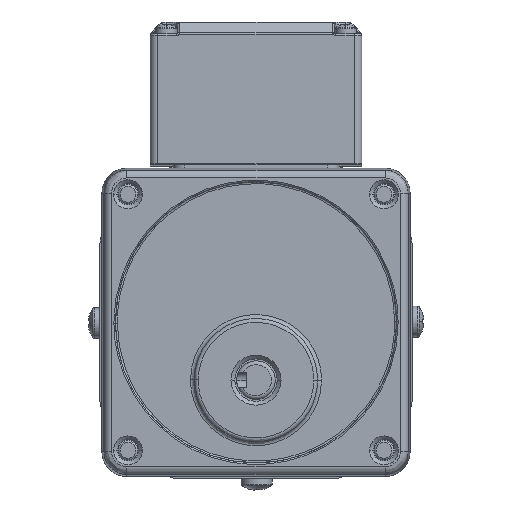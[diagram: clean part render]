
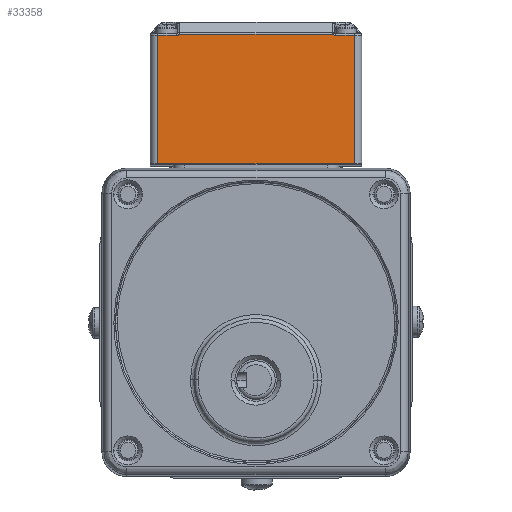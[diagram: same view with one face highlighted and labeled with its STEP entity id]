
A CAD part, front view. The second image highlights one B-rep face of the part: STEP entity #33358.
In plain terms, the highlighted planar face has unit normal (0, -1, 0.008).
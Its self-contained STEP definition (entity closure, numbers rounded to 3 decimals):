
#61 = ORIENTED_EDGE ( 'NONE', *, *, #12767, .F. ) ;
#759 = CARTESIAN_POINT ( 'NONE',  ( 19.875, -3.886, 74.756 ) ) ;
#1040 = CARTESIAN_POINT ( 'NONE',  ( 19.944, -3.886, 74.717 ) ) ;
#1593 = CARTESIAN_POINT ( 'NONE',  ( 20.701, -3.888, 74.48 ) ) ;
#2265 = AXIS2_PLACEMENT_3D ( 'NONE', #14979, #45752, #40943 ) ;
#5029 = CARTESIAN_POINT ( 'NONE',  ( 19.835, -3.885, 74.773 ) ) ;
#5322 = CARTESIAN_POINT ( 'NONE',  ( 19.839, -3.886, 74.772 ) ) ;
#5723 = CARTESIAN_POINT ( 'NONE',  ( 25.5, -3.888, 74.48 ) ) ;
#5875 = CARTESIAN_POINT ( 'NONE',  ( 19.859, -3.886, 74.764 ) ) ;
#6031 = ORIENTED_EDGE ( 'NONE', *, *, #17285, .F. ) ;
#6785 = CARTESIAN_POINT ( 'NONE',  ( -20.107, -3.885, 74.626 ) ) ;
#6995 = FACE_OUTER_BOUND ( 'NONE', #12884, .T. ) ;
#9584 = CARTESIAN_POINT ( 'NONE',  ( -20.701, -3.888, 74.48 ) ) ;
#9771 = ORIENTED_EDGE ( 'NONE', *, *, #12168, .F. ) ;
#9908 = CARTESIAN_POINT ( 'NONE',  ( 20.614, -3.888, 74.482 ) ) ;
#10614 = VECTOR ( 'NONE', #29368, 1000. ) ;
#10808 = CARTESIAN_POINT ( 'NONE',  ( -20.176, -3.886, 74.593 ) ) ;
#10993 = LINE ( 'NONE', #28082, #50747 ) ;
#11434 = LINE ( 'NONE', #46744, #10614 ) ;
#11929 = EDGE_CURVE ( 'NONE', #19911, #38909, #14010, .T. ) ;
#12168 = EDGE_CURVE ( 'NONE', #40911, #22573, #26702, .T. ) ;
#12177 = DIRECTION ( 'NONE',  ( 1., 0., 0. ) ) ;
#12767 = EDGE_CURVE ( 'NONE', #28853, #19911, #11434, .T. ) ;
#12884 = EDGE_LOOP ( 'NONE', ( #28048, #55698, #9771, #13904, #6031, #25568, #42796, #61 ) ) ;
#13871 = CARTESIAN_POINT ( 'NONE',  ( 25.5, -3.888, 74.48 ) ) ;
#13904 = ORIENTED_EDGE ( 'NONE', *, *, #54883, .F. ) ;
#14010 = B_SPLINE_CURVE_WITH_KNOTS ( 'NONE', 3,
 ( #15345, #45550, #41021, #28456, #49849, #10808, #6785, #24172, #41582, #20740 ),
 .UNSPECIFIED., .F., .F.,
 ( 4, 2, 2, 2, 4 ),
 ( 0., 0.25, 0.5, 0.75, 1. ),
 .UNSPECIFIED. ) ;
#14458 = CARTESIAN_POINT ( 'NONE',  ( 20.091, -3.887, 74.636 ) ) ;
#14714 = PLANE ( 'NONE',  #2265 ) ;
#14979 = CARTESIAN_POINT ( 'NONE',  ( 0., -4.163, 40.981 ) ) ;
#15345 = CARTESIAN_POINT ( 'NONE',  ( -20.701, -3.888, 74.48 ) ) ;
#16687 = LINE ( 'NONE', #17262, #43077 ) ;
#17262 = CARTESIAN_POINT ( 'NONE',  ( -25.5, -3.888, 74.48 ) ) ;
#17285 = EDGE_CURVE ( 'NONE', #48208, #29429, #51028, .T. ) ;
#17867 = CARTESIAN_POINT ( 'NONE',  ( 20.675, -3.888, 74.48 ) ) ;
#18152 = CARTESIAN_POINT ( 'NONE',  ( 19.974, -3.886, 74.7 ) ) ;
#18429 = CARTESIAN_POINT ( 'NONE',  ( 20.008, -3.886, 74.68 ) ) ;
#18707 = CARTESIAN_POINT ( 'NONE',  ( 19.835, -3.885, 74.773 ) ) ;
#19911 = VERTEX_POINT ( 'NONE', #9584 ) ;
#20740 = CARTESIAN_POINT ( 'NONE',  ( -19.835, -3.885, 74.773 ) ) ;
#21365 = VECTOR ( 'NONE', #12177, 1000. ) ;
#21552 = EDGE_CURVE ( 'NONE', #28853, #37783, #16687, .T. ) ;
#22573 = VERTEX_POINT ( 'NONE', #42368 ) ;
#22719 = CARTESIAN_POINT ( 'NONE',  ( 19.918, -3.886, 74.733 ) ) ;
#22810 = LINE ( 'NONE', #53870, #54161 ) ;
#23270 = CARTESIAN_POINT ( 'NONE',  ( 20.339, -3.887, 74.534 ) ) ;
#23647 = DIRECTION ( 'NONE',  ( -1., 0., 0. ) ) ;
#24172 = CARTESIAN_POINT ( 'NONE',  ( -19.971, -3.885, 74.7 ) ) ;
#25568 = ORIENTED_EDGE ( 'NONE', *, *, #33101, .F. ) ;
#26702 = LINE ( 'NONE', #13871, #42790 ) ;
#26705 = CARTESIAN_POINT ( 'NONE',  ( 19.835, -3.885, 74.773 ) ) ;
#28048 = ORIENTED_EDGE ( 'NONE', *, *, #21552, .T. ) ;
#28082 = CARTESIAN_POINT ( 'NONE',  ( 20.701, -3.888, 74.48 ) ) ;
#28359 = DIRECTION ( 'NONE',  ( 1., 0., 0. ) ) ;
#28456 = CARTESIAN_POINT ( 'NONE',  ( -20.392, -3.886, 74.516 ) ) ;
#28853 = VERTEX_POINT ( 'NONE', #40189 ) ;
#29368 = DIRECTION ( 'NONE',  ( 1., 0., 0. ) ) ;
#29429 = VERTEX_POINT ( 'NONE', #50346 ) ;
#29814 = DIRECTION ( 'NONE',  ( 0., -0.008, -1. ) ) ;
#31553 = CARTESIAN_POINT ( 'NONE',  ( 20.424, -3.888, 74.511 ) ) ;
#33101 = EDGE_CURVE ( 'NONE', #38909, #48208, #38125, .T. ) ;
#33358 = ADVANCED_FACE ( 'NONE', ( #6995 ), #14714, .T. ) ;
#34502 = CARTESIAN_POINT ( 'NONE',  ( 19.835, -3.885, 74.773 ) ) ;
#35545 = CARTESIAN_POINT ( 'NONE',  ( 20.264, -3.887, 74.559 ) ) ;
#35822 = CARTESIAN_POINT ( 'NONE',  ( 20.047, -3.886, 74.659 ) ) ;
#37783 = VERTEX_POINT ( 'NONE', #56416 ) ;
#38125 = LINE ( 'NONE', #55517, #21365 ) ;
#38909 = VERTEX_POINT ( 'NONE', #46455 ) ;
#40108 = CARTESIAN_POINT ( 'NONE',  ( 19.835, -3.885, 74.773 ) ) ;
#40189 = CARTESIAN_POINT ( 'NONE',  ( -25.5, -3.888, 74.48 ) ) ;
#40673 = CARTESIAN_POINT ( 'NONE',  ( 20.198, -3.887, 74.585 ) ) ;
#40911 = VERTEX_POINT ( 'NONE', #5723 ) ;
#40943 = DIRECTION ( 'NONE',  ( -1., 0., 0. ) ) ;
#41021 = CARTESIAN_POINT ( 'NONE',  ( -20.543, -3.887, 74.488 ) ) ;
#41582 = CARTESIAN_POINT ( 'NONE',  ( -19.905, -3.884, 74.743 ) ) ;
#42368 = CARTESIAN_POINT ( 'NONE',  ( 25.5, -4.161, 41.181 ) ) ;
#42790 = VECTOR ( 'NONE', #48372, 1000. ) ;
#42796 = ORIENTED_EDGE ( 'NONE', *, *, #11929, .F. ) ;
#43077 = VECTOR ( 'NONE', #29814, 1000. ) ;
#45550 = CARTESIAN_POINT ( 'NONE',  ( -20.622, -3.887, 74.483 ) ) ;
#45752 = DIRECTION ( 'NONE',  ( 0., -1., 0.008 ) ) ;
#46455 = CARTESIAN_POINT ( 'NONE',  ( -19.835, -3.885, 74.773 ) ) ;
#46744 = CARTESIAN_POINT ( 'NONE',  ( -25.5, -3.888, 74.48 ) ) ;
#48208 = VERTEX_POINT ( 'NONE', #34502 ) ;
#48372 = DIRECTION ( 'NONE',  ( 0., -0.008, -1. ) ) ;
#48653 = CARTESIAN_POINT ( 'NONE',  ( 19.895, -3.886, 74.746 ) ) ;
#48948 = CARTESIAN_POINT ( 'NONE',  ( 20.521, -3.888, 74.492 ) ) ;
#49849 = CARTESIAN_POINT ( 'NONE',  ( -20.319, -3.886, 74.538 ) ) ;
#50346 = CARTESIAN_POINT ( 'NONE',  ( 20.701, -3.888, 74.48 ) ) ;
#50747 = VECTOR ( 'NONE', #28359, 1000. ) ;
#51028 =( BOUNDED_CURVE ( )  B_SPLINE_CURVE ( 3, ( #40108, #18707, #26705, #5029, #5322, #52669, #5875, #759, #48653, #22719, #1040, #18152, #18429, #35822, #14458, #53224, #40673, #35545, #23270, #31553, #48948, #9908, #17867, #1593 ),
 .UNSPECIFIED., .F., .F. ) 
 B_SPLINE_CURVE_WITH_KNOTS ( ( 4, 1, 1, 1, 1, 1, 1, 1, 1, 1, 1, 1, 1, 1, 1, 1, 1, 1, 1, 1, 1, 4 ),
 ( 0., 0.006, 0.036, 0.064, 0.092, 0.12, 0.148, 0.177, 0.208, 0.242, 0.279, 0.32, 0.364, 0.412, 0.465, 0.524, 0.59, 0.663, 0.745, 0.834, 0.932, 1. ),
 .UNSPECIFIED. ) 
 CURVE ( )  GEOMETRIC_REPRESENTATION_ITEM ( )  RATIONAL_B_SPLINE_CURVE ( ( 1.172, 1.172, 1.172, 1.172, 1.172, 1.172, 1.172, 1.172, 1.172, 1.172, 1.172, 1.172, 1.172, 1.172, 1.172, 1.172, 1.172, 1.172, 1.172, 1.172, 1.172, 1.172, 1.172, 1.172 ) ) 
 REPRESENTATION_ITEM ( '' )  );
#52669 = CARTESIAN_POINT ( 'NONE',  ( 19.847, -3.886, 74.769 ) ) ;
#52780 = EDGE_CURVE ( 'NONE', #22573, #37783, #22810, .T. ) ;
#53224 = CARTESIAN_POINT ( 'NONE',  ( 20.141, -3.887, 74.611 ) ) ;
#53870 = CARTESIAN_POINT ( 'NONE',  ( 25.5, -4.161, 41.181 ) ) ;
#54161 = VECTOR ( 'NONE', #23647, 1000. ) ;
#54883 = EDGE_CURVE ( 'NONE', #29429, #40911, #10993, .T. ) ;
#55517 = CARTESIAN_POINT ( 'NONE',  ( -19.835, -3.885, 74.773 ) ) ;
#55698 = ORIENTED_EDGE ( 'NONE', *, *, #52780, .F. ) ;
#56416 = CARTESIAN_POINT ( 'NONE',  ( -25.5, -4.161, 41.181 ) ) ;
